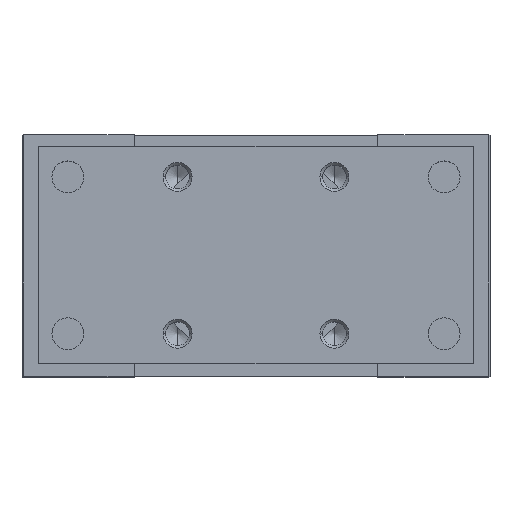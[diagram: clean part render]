
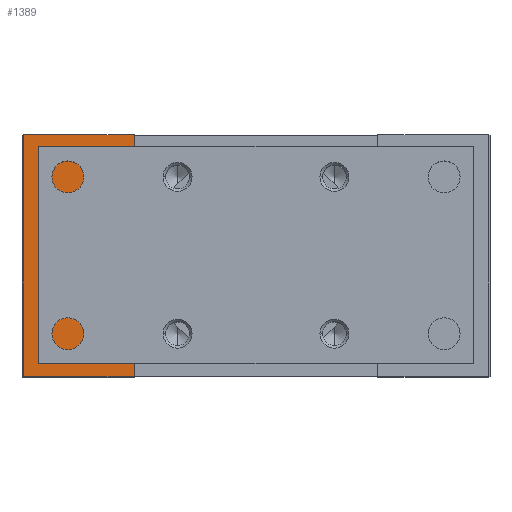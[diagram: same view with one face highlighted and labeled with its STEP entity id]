
A CAD part, top view. The second image highlights one B-rep face of the part: STEP entity #1389.
In plain terms, the highlighted planar face has unit normal (0, 0, 1).
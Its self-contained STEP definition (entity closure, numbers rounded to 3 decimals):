
#104 = CIRCLE ( 'NONE', #3365, 6. ) ;
#122 = VERTEX_POINT ( 'NONE', #7064 ) ;
#508 = VERTEX_POINT ( 'NONE', #3411 ) ;
#804 = CARTESIAN_POINT ( 'NONE',  ( -48.5, 25., 49. ) ) ;
#1389 = ADVANCED_FACE ( 'NONE', ( #5829, #10122 ), #9339, .F. ) ;
#1615 = CARTESIAN_POINT ( 'NONE',  ( -48.5, -25., 49. ) ) ;
#1895 = VECTOR ( 'NONE', #6635, 1000. ) ;
#2253 = VECTOR ( 'NONE', #5768, 1000. ) ;
#2274 = VERTEX_POINT ( 'NONE', #6974 ) ;
#2492 = EDGE_CURVE ( 'NONE', #2274, #5028, #5006, .T. ) ;
#2586 = CARTESIAN_POINT ( 'NONE',  ( -43., 0., 49. ) ) ;
#2689 = ORIENTED_EDGE ( 'NONE', *, *, #7922, .F. ) ;
#2749 = EDGE_CURVE ( 'NONE', #3091, #9920, #104, .T. ) ;
#2764 = ORIENTED_EDGE ( 'NONE', *, *, #2749, .F. ) ;
#3091 = VERTEX_POINT ( 'NONE', #2586 ) ;
#3289 = DIRECTION ( 'NONE',  ( 0., -1., 0. ) ) ;
#3348 = CARTESIAN_POINT ( 'NONE',  ( -25.25, 25., 49. ) ) ;
#3365 = AXIS2_PLACEMENT_3D ( 'NONE', #3469, #7793, #6956 ) ;
#3411 = CARTESIAN_POINT ( 'NONE',  ( -25.25, -25., 49. ) ) ;
#3469 = CARTESIAN_POINT ( 'NONE',  ( -37., 0., 49. ) ) ;
#3599 = CIRCLE ( 'NONE', #5215, 6. ) ;
#3863 = EDGE_CURVE ( 'NONE', #2274, #122, #10169, .T. ) ;
#3907 = CARTESIAN_POINT ( 'NONE',  ( -31., 0., 49. ) ) ;
#4656 = EDGE_CURVE ( 'NONE', #122, #508, #9287, .T. ) ;
#5006 = LINE ( 'NONE', #804, #1895 ) ;
#5028 = VERTEX_POINT ( 'NONE', #8255 ) ;
#5215 = AXIS2_PLACEMENT_3D ( 'NONE', #9400, #9458, #10251 ) ;
#5768 = DIRECTION ( 'NONE',  ( 0., -1., 0. ) ) ;
#5829 = FACE_OUTER_BOUND ( 'NONE', #9469, .T. ) ;
#6635 = DIRECTION ( 'NONE',  ( 1., 0., 0. ) ) ;
#6870 = EDGE_CURVE ( 'NONE', #5028, #508, #8243, .T. ) ;
#6931 = VECTOR ( 'NONE', #11092, 1000. ) ;
#6956 = DIRECTION ( 'NONE',  ( 1., 0., 0. ) ) ;
#6974 = CARTESIAN_POINT ( 'NONE',  ( -48.2, 25., 49. ) ) ;
#7064 = CARTESIAN_POINT ( 'NONE',  ( -48.2, -25., 49. ) ) ;
#7457 = CARTESIAN_POINT ( 'NONE',  ( -48.2, 50., 49. ) ) ;
#7614 = EDGE_LOOP ( 'NONE', ( #2764, #2689 ) ) ;
#7793 = DIRECTION ( 'NONE',  ( 0., 0., 1. ) ) ;
#7919 = ORIENTED_EDGE ( 'NONE', *, *, #6870, .F. ) ;
#7922 = EDGE_CURVE ( 'NONE', #9920, #3091, #3599, .T. ) ;
#8243 = LINE ( 'NONE', #3348, #8614 ) ;
#8255 = CARTESIAN_POINT ( 'NONE',  ( -25.25, 25., 49. ) ) ;
#8306 = AXIS2_PLACEMENT_3D ( 'NONE', #9164, #8316, #8436 ) ;
#8316 = DIRECTION ( 'NONE',  ( 0., 0., -1. ) ) ;
#8436 = DIRECTION ( 'NONE',  ( 0., -1., 0. ) ) ;
#8614 = VECTOR ( 'NONE', #3289, 1000. ) ;
#8942 = ORIENTED_EDGE ( 'NONE', *, *, #3863, .T. ) ;
#9164 = CARTESIAN_POINT ( 'NONE',  ( -48.5, 25., 49. ) ) ;
#9287 = LINE ( 'NONE', #1615, #6931 ) ;
#9339 = PLANE ( 'NONE',  #8306 ) ;
#9364 = ORIENTED_EDGE ( 'NONE', *, *, #4656, .T. ) ;
#9400 = CARTESIAN_POINT ( 'NONE',  ( -37., 0., 49. ) ) ;
#9458 = DIRECTION ( 'NONE',  ( 0., 0., 1. ) ) ;
#9469 = EDGE_LOOP ( 'NONE', ( #9684, #8942, #9364, #7919 ) ) ;
#9684 = ORIENTED_EDGE ( 'NONE', *, *, #2492, .F. ) ;
#9920 = VERTEX_POINT ( 'NONE', #3907 ) ;
#10122 = FACE_BOUND ( 'NONE', #7614, .T. ) ;
#10169 = LINE ( 'NONE', #7457, #2253 ) ;
#10251 = DIRECTION ( 'NONE',  ( 1., 0., 0. ) ) ;
#11092 = DIRECTION ( 'NONE',  ( 1., 0., 0. ) ) ;
